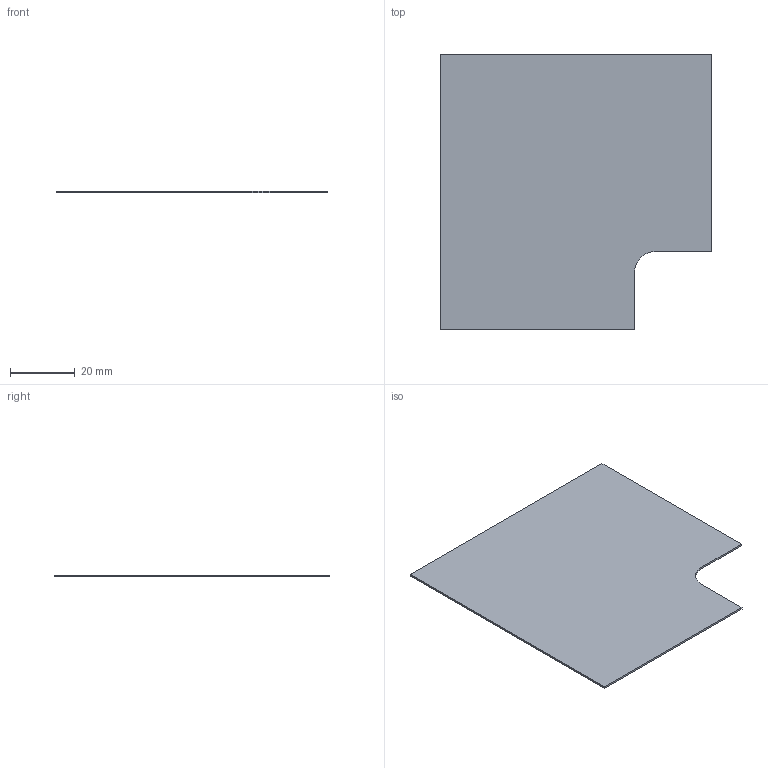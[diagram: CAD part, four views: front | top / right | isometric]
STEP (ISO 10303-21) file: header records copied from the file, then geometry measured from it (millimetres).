
FILE_DESCRIPTION((''),'2;1');
FILE_NAME('SB104436_3D-SOFTWARE_COLOUR','2013-09-02T',('SESA231906'),('Schneider-Electric'),'PRO/ENGINEER BY PARAMETRIC TECHNOLOGY CORPORATION, 2011410','PRO/ENGINEER BY PARAMETRIC TECHNOLOGY CORPORATION, 2011410','');
FILE_SCHEMA(('CONFIG_CONTROL_DESIGN'));
Length unit declared in the file: millimetre
Products named in the file (1): SB104436_3D-SOFTWARE_COLOUR
Bounding box: 84.2 x 85.4 x 0.6 mm (x, y, z)
Volume: 3971.4 mm3; surface area: 13439.7 mm2
Topology: 1 solids, 1 shells, 9 faces, 21 edges, 14 vertices
Faces by surface type: plane 8, cylinder 1
Entity records: 295 total; most frequent: CARTESIAN_POINT 44, ORIENTED_EDGE 42, DIRECTION 41, EDGE_CURVE 21, VECTOR 19, LINE 19, VERTEX_POINT 14, AXIS2_PLACEMENT_3D 11
